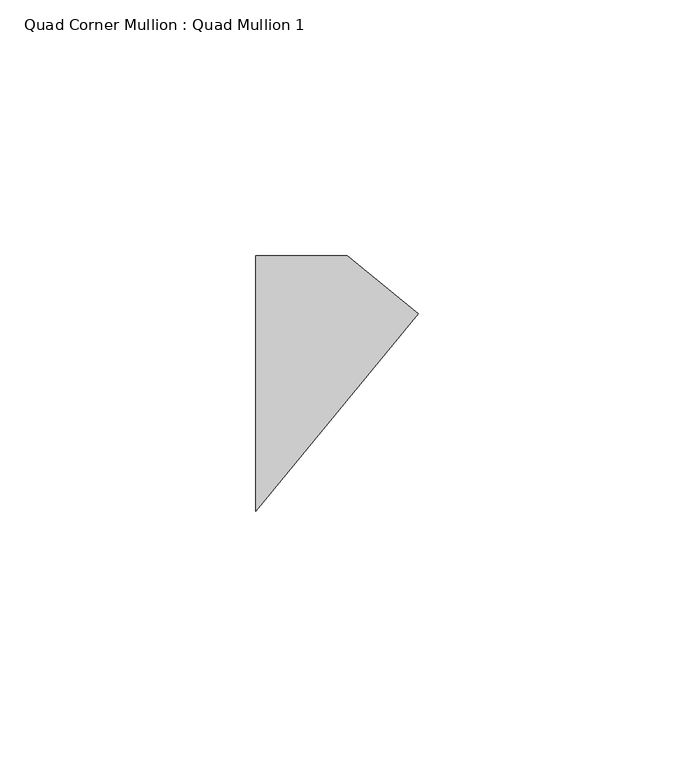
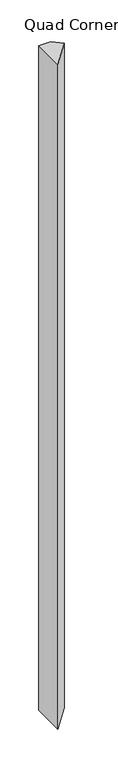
"""IFC4 building model written with IfcOpenShell, lengths in millimetres: member geometry, Quad Corner Mullion : Quad Mullion 1."""

import ifcopenshell
import ifcopenshell.guid

model = None  # the IFC model being written
_history = None  # IfcOwnerHistory: only IFC2X3 demands one
_inside = {}  # id of a spatial element -> (the spatial element, [elements in it])
_under = {}  # id of a project, library or spatial element -> (it, [spatial elements below it])
_declared = {}  # id of a project -> (the project, [libraries it declares])
_typed = {}  # id of a type object -> (the type object, [elements of that type])
_made_of = {}  # id of a material, layer set ... -> (it, [elements and type objects made of it])


def new_model(schema):
    """Start an empty IFC model of exactly this schema.

    Asked for "IFC4X3", IfcOpenShell would pick the latest addendum, in which some entities
    have other attributes; the version numbers below select the first issue.
    IFC2X3 requires an IfcOwnerHistory on every rooted entity: one is made here for all.
    """
    global model, _history
    if schema == "IFC4X3":
        model = ifcopenshell.file(schema_version=(4, 3, 0, 0))
    else:
        model = ifcopenshell.file(schema=schema)
    _inside.clear()
    _under.clear()
    _declared.clear()
    _typed.clear()
    _made_of.clear()
    _history = None
    if model.schema == "IFC2X3":
        org = make("IfcOrganization", Name="unknown")
        user = make(
            "IfcPersonAndOrganization",
            ThePerson=make("IfcPerson", FamilyName="unknown"),
            TheOrganization=org,
        )
        app = make(
            "IfcApplication",
            ApplicationDeveloper=org,
            Version="unknown",
            ApplicationFullName="unknown",
            ApplicationIdentifier="unknown",
        )
        _history = make(
            "IfcOwnerHistory",
            OwningUser=user,
            OwningApplication=app,
            ChangeAction="ADDED",
            CreationDate=0,
        )
    return model


def make(cls, **values):
    """One entity of the class cls with the attributes given. An attribute that is None is left unset."""
    return model.create_entity(
        cls, **{name: value for name, value in values.items() if value is not None}
    )


def rooted(cls, **values):
    """An entity with a GlobalId (a new one), such as an element, a storey or a relation."""
    return make(cls, GlobalId=ifcopenshell.guid.new(), OwnerHistory=_history, **values)


def si_unit(unit_type, name, prefix=None):
    """IfcSIUnit, for example si_unit("LENGTHUNIT", "METRE", prefix="MILLI")."""
    return make("IfcSIUnit", UnitType=unit_type, Prefix=prefix, Name=name)


def assignment(units):
    """IfcUnitAssignment: the units of a project."""
    return None if units is None else make("IfcUnitAssignment", Units=units)


def point(xyz):
    """IfcCartesianPoint."""
    return None if xyz is None else make("IfcCartesianPoint", Coordinates=xyz)


def direction(xyz):
    """IfcDirection."""
    return None if xyz is None else make("IfcDirection", DirectionRatios=xyz)


def frame(location, z_axis=None, x_axis=None):
    """IfcAxis2Placement3D, a coordinate frame: its origin and axes. An axis left out is left unset."""
    return make(
        "IfcAxis2Placement3D",
        Location=point(location),
        Axis=direction(z_axis),
        RefDirection=direction(x_axis),
    )


def origin():
    """The frame at (0, 0, 0) with its axes left unset."""
    return frame((0.0, 0.0, 0.0))


def place(relative_to, where):
    """IfcLocalPlacement: puts the frame where relative to a parent placement (None: the world)."""
    return make(
        "IfcLocalPlacement", PlacementRelTo=relative_to, RelativePlacement=where
    )


def context(
    kind, dimensions, precision=None, world=None, true_north=None, identifier=None
):
    """IfcGeometricRepresentationContext, for example the 3D "Model" context."""
    return make(
        "IfcGeometricRepresentationContext",
        ContextIdentifier=identifier,
        ContextType=kind,
        CoordinateSpaceDimension=dimensions,
        Precision=precision,
        WorldCoordinateSystem=world,
        TrueNorth=true_north,
    )


def project(units=None, contexts=None):
    """IfcProject with its units and contexts."""
    return rooted(
        "IfcProject",
        Name="project",
        RepresentationContexts=contexts,
        UnitsInContext=assignment(units),
    )


def spatial(cls, under=None, at=None, **own):
    """A site, building, storey or space (cls), placed at a placement, below another one or the project."""
    s = rooted(cls, ObjectPlacement=at, **own)
    if under is not None:
        _under.setdefault(under.id(), (under, []))[1].append(s)
    return s


def polyline(points):
    """IfcPolyline through the points."""
    return make("IfcPolyline", Points=[point(p) for p in points])


def outline(outer, holes=None, kind="AREA"):
    """IfcArbitraryClosedProfileDef: a profile drawn as a closed curve; with holes, ...WithVoids."""
    if holes is None:
        return make("IfcArbitraryClosedProfileDef", ProfileType=kind, OuterCurve=outer)
    return make(
        "IfcArbitraryProfileDefWithVoids",
        ProfileType=kind,
        OuterCurve=outer,
        InnerCurves=holes,
    )


def extrude(swept, where, along, depth):
    """IfcExtrudedAreaSolid: the profile swept, set in the frame where, extruded along a direction by depth."""
    return make(
        "IfcExtrudedAreaSolid",
        SweptArea=swept,
        Position=where,
        ExtrudedDirection=direction(along),
        Depth=depth,
    )


def shape(context_of_items, identifier, shape_type, items):
    """IfcShapeRepresentation: the items that make up one representation, for example the "Body"."""
    return make(
        "IfcShapeRepresentation",
        ContextOfItems=context_of_items,
        RepresentationIdentifier=identifier,
        RepresentationType=shape_type,
        Items=items,
    )


def source(mapping_origin, context_of_items, identifier, shape_type, items):
    """IfcRepresentationMap: a shape defined once, which mapped items show again and again."""
    return make(
        "IfcRepresentationMap",
        MappingOrigin=mapping_origin,
        MappedRepresentation=shape(context_of_items, identifier, shape_type, items),
    )


def transform(
    local_origin,
    x_axis=None,
    y_axis=None,
    z_axis=None,
    scale=None,
    scale2=None,
    scale3=None,
    uniform=True,
):
    """IfcCartesianTransformationOperator3D, or its non-uniform kind. x_axis, y_axis, z_axis: its Axis1, 2, 3."""
    if uniform:
        return make(
            "IfcCartesianTransformationOperator3D",
            Axis1=direction(x_axis),
            Axis2=direction(y_axis),
            LocalOrigin=point(local_origin),
            Scale=scale,
            Axis3=direction(z_axis),
        )
    return make(
        "IfcCartesianTransformationOperator3DnonUniform",
        Axis1=direction(x_axis),
        Axis2=direction(y_axis),
        LocalOrigin=point(local_origin),
        Scale=scale,
        Axis3=direction(z_axis),
        Scale2=scale2,
        Scale3=scale3,
    )


def mapped(mapping_source, mapping_target):
    """IfcMappedItem: shows the shape of a source again, moved by a transform."""
    return make(
        "IfcMappedItem", MappingSource=mapping_source, MappingTarget=mapping_target
    )


def made_of(thing, what):
    """Note that an element or type object is made of a material, layer set ...; save() writes the relation."""
    if what is not None:
        _made_of.setdefault(what.id(), (what, []))[1].append(thing)
    return thing


def element(
    cls,
    number,
    at=None,
    inside=None,
    cuts=None,
    type_object=None,
    material=None,
    context=None,
    identifier="Body",
    shape_type=None,
    held_by="IfcProductDefinitionShape",
    body=None,
    shapes=None,
    **own,
):
    """One element of the class cls, such as IfcWall. Its Tag is "e" and its number.

    at: its placement. inside: the storey or other place that contains it. cuts: it is an
    opening in that element (IfcRelVoidsElement). A single representation is given by context,
    identifier, shape_type and body (its items); several are given by shapes. held_by: the class
    of the entity that holds the representations. save() writes the other relations.
    """
    e = rooted(cls, Tag="e%d" % number, ObjectPlacement=at, **own)
    if body is not None:
        shapes = [shape(context, identifier, shape_type, body)]
    if shapes is not None:
        e.Representation = make(held_by, Representations=shapes)
    if inside is not None:
        _inside.setdefault(inside.id(), (inside, []))[1].append(e)
    if cuts is not None:
        rooted(
            "IfcRelVoidsElement", RelatingBuildingElement=cuts, RelatedOpeningElement=e
        )
    if type_object is not None:
        _typed.setdefault(type_object.id(), (type_object, []))[1].append(e)
    return made_of(e, material)


def aggregate(whole, parts):
    """IfcRelAggregates: a whole, such as a stair, and the parts it consists of."""
    return rooted("IfcRelAggregates", RelatingObject=whole, RelatedObjects=parts)


def save(model, path):
    """Write the relations noted so far, then the file.

    IfcRelAggregates (storeys below a building ...), IfcRelContainedInSpatialStructure (elements
    in a storey), IfcRelDefinesByType, IfcRelAssociatesMaterial and IfcRelDeclares: one each for
    every whole, place, type object, material and project.
    """
    for whole, parts in _under.values():
        aggregate(whole, parts)
    for where, things in _inside.values():
        rooted(
            "IfcRelContainedInSpatialStructure",
            RelatedElements=things,
            RelatingStructure=where,
        )
    for kind, things in _typed.values():
        rooted("IfcRelDefinesByType", RelatedObjects=things, RelatingType=kind)
    for what, things in _made_of.values():
        rooted("IfcRelAssociatesMaterial", RelatedObjects=things, RelatingMaterial=what)
    for by, libraries in _declared.values():
        rooted("IfcRelDeclares", RelatingContext=by, RelatedDefinitions=libraries)
    model.write(path)


def quad_corner_mullion_quad_mullion_1_7ad7ab2c(model_context):
    return source(origin(), model_context, "Body", "SweptSolid", [
        extrude(outline(polyline([(22.8068923, 13.6086231), (-8.963758, -25.0), (-8.963758, 25.0), (8.963758, 25.0), (22.8068923, 13.6086231)])), frame((0.0, 0.0, -1050.0), z_axis=(0.0, 0.0, 1.0), x_axis=(1.0, 0.0, 0.0)), (0.0, 0.0, 1.0), 1050.0),
    ])


if __name__ == "__main__":
    model = new_model("IFC4")
    model_context = context("Model", 3, world=origin())
    ifc_project = project(units=[si_unit("LENGTHUNIT", "METRE", prefix="MILLI")], contexts=[model_context])
    site = spatial("IfcSite", under=ifc_project)
    building = spatial("IfcBuilding", under=site)
    placement = place(None, origin())
    quad_corner_mullion_quad_mullion_1_shape = quad_corner_mullion_quad_mullion_1_7ad7ab2c(model_context)
    element("IfcMember", 1, ObjectType="Quad Corner Mullion : Quad Mullion 1", at=placement, inside=building, context=model_context, shape_type="MappedRepresentation", body=[
        mapped(quad_corner_mullion_quad_mullion_1_shape, transform((0.0, 0.0, 0.0), x_axis=(1.0, 0.0, 0.0), y_axis=(0.0, 1.0, 0.0), z_axis=(0.0, 0.0, 1.0))),
    ])
    save(model, "model.ifc")
